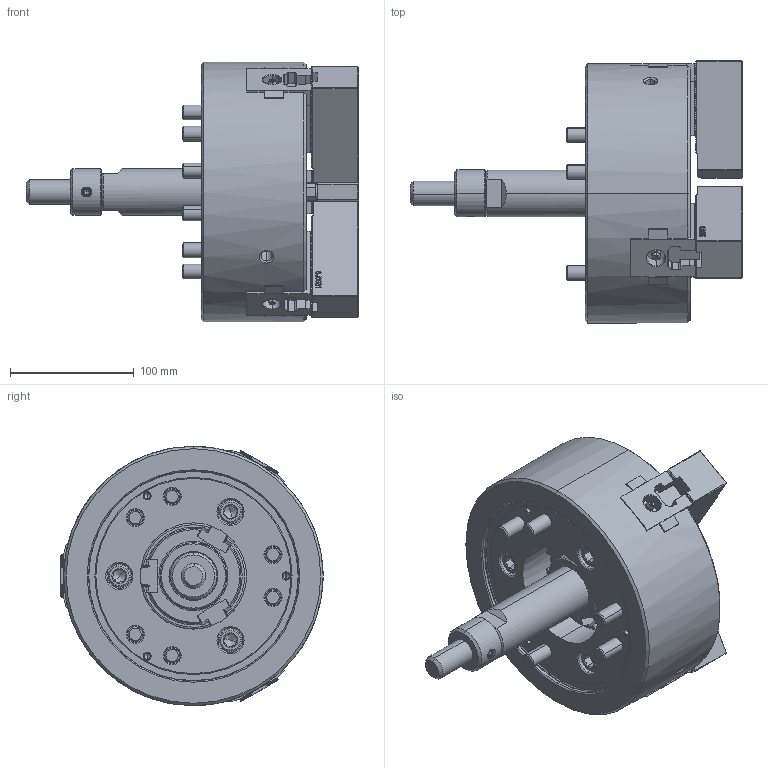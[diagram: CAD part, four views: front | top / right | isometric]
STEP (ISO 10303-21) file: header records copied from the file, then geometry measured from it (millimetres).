
FILE_DESCRIPTION (( 'STEP AP214' ), '1' );
FILE_NAME ('DT1_NL08_OUTSIDE_VIEW_HUL.STEP', '2026-03-19T05:26:14', ( '' ), ( '' ), 'SwSTEP 2.0', 'SolidWorks 2022', '' );
FILE_SCHEMA (( 'AUTOMOTIVE_DESIGN' ));
Length unit declared in the file: millimetre
Products named in the file (11): DT1_NL08_OUTSIDE_VIEW_HUL; DT1_NL08_BASE^DT1_NL08; DT1_NL08_M5x12^DT1_NL08; DT1_NL08_COVER^DT1_NL08; DT1_NL08_M12x35^DT1_NL08; DT1_NL08_TNUT^DT1_NL08; DT1_NL08_M12x85^DT1_NL08; Copy of 61P310518^DT1_NL08; DT1_NL08_DN^DT1_NL08; DT1_NL08_DRAWSCREW^DT1_NL08; DT1_NL08_SOFTJAW^DT1_NL08
Assembly tree (26 placements, depth 2):
  DT1_NL08_OUTSIDE_VIEW_HUL
    DT1_NL08_SOFTJAW^DT1_NL08  x3
    DT1_NL08_TNUT^DT1_NL08  x3
    DT1_NL08_COVER^DT1_NL08
    DT1_NL08_DRAWSCREW^DT1_NL08
    Copy of 61P310518^DT1_NL08
    DT1_NL08_M12x85^DT1_NL08  x6
    DT1_NL08_M12x35^DT1_NL08  x6
    DT1_NL08_M5x12^DT1_NL08  x3
    DT1_NL08_DN^DT1_NL08
    DT1_NL08_BASE^DT1_NL08
Bounding box: 268.69 x 212.33 x 210 mm (x, y, z)
Volume: 3102365 mm3; surface area: 395423.6 mm2
Topology: 26 solids, 26 shells, 4742 faces, 13369 edges, 8750 vertices
Faces by surface type: plane 2686, cylinder 1137, cone 427, bspline 414, torus 72, sphere 6
Entity records: 107760 total; most frequent: CARTESIAN_POINT 32627, ORIENTED_EDGE 17126, DIRECTION 13268, EDGE_CURVE 8563, VECTOR 5808, LINE 5808, VERTEX_POINT 5610, AXIS2_PLACEMENT_3D 3730
